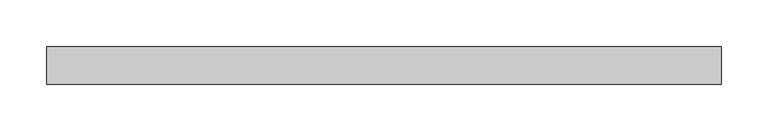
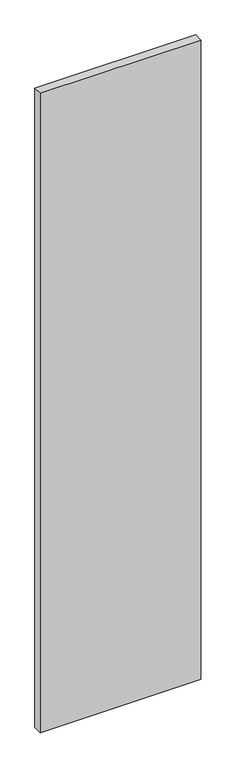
"""IFC4 building model written with IfcOpenShell, lengths in millimetres: plate geometry, Vitré."""

from ifc_helpers import new_model, si_unit, origin, origin_with_axes, place, context, project, spatial, polyline, outline, extrude, source, transform, mapped, element, save


def plate_1ebd2f2c(model_context):
    return source(origin(), model_context, "Body", "SweptSolid", [
        extrude(outline(polyline([(-360.0, -20.0), (-360.0, 20.0), (360.0, 20.0), (360.0, -20.0), (-360.0, -20.0)])), origin_with_axes(), (0.0, 0.0, 1.0), 3030.0),
    ])


if __name__ == "__main__":
    model = new_model("IFC4")
    model_context = context("Model", 3, world=origin())
    ifc_project = project(units=[si_unit("LENGTHUNIT", "METRE", prefix="MILLI")], contexts=[model_context])
    site = spatial("IfcSite", under=ifc_project)
    building = spatial("IfcBuilding", under=site)
    placement = place(None, origin())
    plate_shape = plate_1ebd2f2c(model_context)
    element("IfcPlate", 1, ObjectType="Vitré", at=placement, inside=building, context=model_context, shape_type="MappedRepresentation", body=[
        mapped(plate_shape, transform((0.0, 0.0, 0.0), x_axis=(1.0, 0.0, 0.0), y_axis=(0.0, 1.0, 0.0), z_axis=(0.0, 0.0, 1.0))),
    ])
    save(model, "model.ifc")
